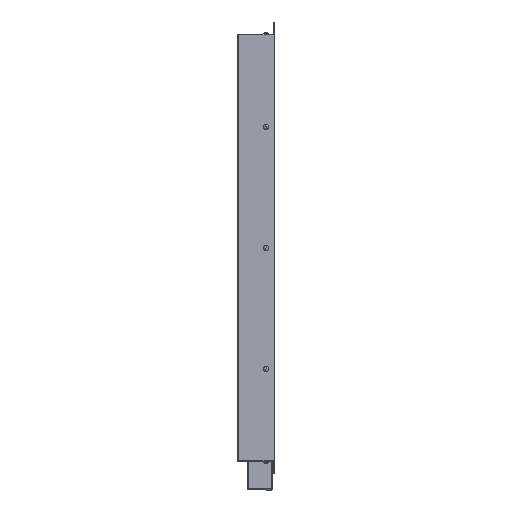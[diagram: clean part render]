
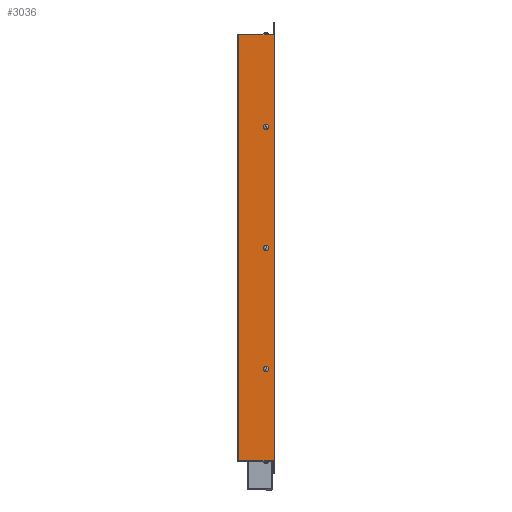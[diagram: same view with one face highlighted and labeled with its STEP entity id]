
A CAD part, left-side view. The second image highlights one B-rep face of the part: STEP entity #3036.
In plain terms, the highlighted planar face has unit normal (-1, 0, 0).
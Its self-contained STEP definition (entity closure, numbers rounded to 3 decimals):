
#253 = CIRCLE ( 'NONE', #5078, 3.45 ) ;
#361 = EDGE_CURVE ( 'NONE', #4134, #3104, #1753, .T. ) ;
#471 = EDGE_CURVE ( 'NONE', #2276, #893, #1402, .T. ) ;
#584 = CIRCLE ( 'NONE', #3241, 3.45 ) ;
#659 = CARTESIAN_POINT ( 'NONE',  ( -265., 44., 264. ) ) ;
#751 = AXIS2_PLACEMENT_3D ( 'NONE', #1857, #1760, #1757 ) ;
#770 = CARTESIAN_POINT ( 'NONE',  ( -265., 13.189, -148.683 ) ) ;
#893 = VERTEX_POINT ( 'NONE', #770 ) ;
#979 = DIRECTION ( 'NONE',  ( 0., 0., 1. ) ) ;
#993 = DIRECTION ( 'NONE',  ( -1., 0., 0. ) ) ;
#1019 = CARTESIAN_POINT ( 'NONE',  ( -265., 13.189, 148.683 ) ) ;
#1051 = CARTESIAN_POINT ( 'NONE',  ( -265., 10., -150. ) ) ;
#1088 = EDGE_CURVE ( 'NONE', #3165, #2665, #253, .T. ) ;
#1179 = VECTOR ( 'NONE', #4501, 1000. ) ;
#1183 = LINE ( 'NONE', #4536, #1179 ) ;
#1218 = DIRECTION ( 'NONE',  ( -1., 0., 0. ) ) ;
#1324 = CARTESIAN_POINT ( 'NONE',  ( -265., 0., -264. ) ) ;
#1400 = VECTOR ( 'NONE', #5074, 1000. ) ;
#1402 = CIRCLE ( 'NONE', #2366, 3.45 ) ;
#1434 = LINE ( 'NONE', #5094, #1400 ) ;
#1596 = DIRECTION ( 'NONE',  ( 0., 0., 1. ) ) ;
#1599 = DIRECTION ( 'NONE',  ( -1., 0., 0. ) ) ;
#1621 = CARTESIAN_POINT ( 'NONE',  ( -265., 10., 0. ) ) ;
#1633 = DIRECTION ( 'NONE',  ( 0., 0., 1. ) ) ;
#1731 = VECTOR ( 'NONE', #3074, 1000. ) ;
#1753 = LINE ( 'NONE', #3008, #1731 ) ;
#1757 = DIRECTION ( 'NONE',  ( 0., 0., 1. ) ) ;
#1760 = DIRECTION ( 'NONE',  ( -1., 0., 0. ) ) ;
#1775 = CARTESIAN_POINT ( 'NONE',  ( -265., 10., -150. ) ) ;
#1799 = PLANE ( 'NONE',  #751 ) ;
#1857 = CARTESIAN_POINT ( 'NONE',  ( -265., 45., 265. ) ) ;
#1921 = DIRECTION ( 'NONE',  ( -1., 0., 0. ) ) ;
#1969 = CIRCLE ( 'NONE', #6294, 3.45 ) ;
#1977 = CIRCLE ( 'NONE', #2294, 3.45 ) ;
#2276 = VERTEX_POINT ( 'NONE', #5409 ) ;
#2294 = AXIS2_PLACEMENT_3D ( 'NONE', #1775, #1921, #1633 ) ;
#2338 = AXIS2_PLACEMENT_3D ( 'NONE', #4983, #4976, #4973 ) ;
#2366 = AXIS2_PLACEMENT_3D ( 'NONE', #1051, #993, #979 ) ;
#2387 = EDGE_CURVE ( 'NONE', #2665, #3165, #4286, .T. ) ;
#2574 = EDGE_CURVE ( 'NONE', #2754, #5655, #3928, .T. ) ;
#2665 = VERTEX_POINT ( 'NONE', #3548 ) ;
#2727 = VERTEX_POINT ( 'NONE', #3083 ) ;
#2741 = ORIENTED_EDGE ( 'NONE', *, *, #2387, .F. ) ;
#2754 = VERTEX_POINT ( 'NONE', #3058 ) ;
#2807 = ORIENTED_EDGE ( 'NONE', *, *, #1088, .F. ) ;
#3008 = CARTESIAN_POINT ( 'NONE',  ( -265., 45., -264. ) ) ;
#3029 = ORIENTED_EDGE ( 'NONE', *, *, #4746, .F. ) ;
#3036 = ADVANCED_FACE ( 'NONE', ( #3284, #3210, #3198, #3192 ), #1799, .T. ) ;
#3058 = CARTESIAN_POINT ( 'NONE',  ( -265., 0., 264. ) ) ;
#3074 = DIRECTION ( 'NONE',  ( 0., -1., 0. ) ) ;
#3083 = CARTESIAN_POINT ( 'NONE',  ( -265., 13.189, 1.317 ) ) ;
#3104 = VERTEX_POINT ( 'NONE', #1324 ) ;
#3165 = VERTEX_POINT ( 'NONE', #1019 ) ;
#3192 = FACE_BOUND ( 'NONE', #4859, .T. ) ;
#3198 = FACE_BOUND ( 'NONE', #3309, .T. ) ;
#3209 = ORIENTED_EDGE ( 'NONE', *, *, #2574, .T. ) ;
#3210 = FACE_OUTER_BOUND ( 'NONE', #5331, .T. ) ;
#3241 = AXIS2_PLACEMENT_3D ( 'NONE', #1621, #1599, #1596 ) ;
#3284 = FACE_BOUND ( 'NONE', #3352, .T. ) ;
#3304 = DIRECTION ( 'NONE',  ( 0., 0., 1. ) ) ;
#3309 = EDGE_LOOP ( 'NONE', ( #3497, #3505 ) ) ;
#3352 = EDGE_LOOP ( 'NONE', ( #2741, #2807 ) ) ;
#3358 = ORIENTED_EDGE ( 'NONE', *, *, #4565, .T. ) ;
#3424 = ORIENTED_EDGE ( 'NONE', *, *, #361, .T. ) ;
#3497 = ORIENTED_EDGE ( 'NONE', *, *, #4002, .F. ) ;
#3505 = ORIENTED_EDGE ( 'NONE', *, *, #5399, .F. ) ;
#3513 = ORIENTED_EDGE ( 'NONE', *, *, #3960, .F. ) ;
#3546 = ORIENTED_EDGE ( 'NONE', *, *, #471, .F. ) ;
#3548 = CARTESIAN_POINT ( 'NONE',  ( -265., 6.811, 151.317 ) ) ;
#3711 = VERTEX_POINT ( 'NONE', #4188 ) ;
#3890 = VECTOR ( 'NONE', #4024, 1000. ) ;
#3928 = LINE ( 'NONE', #4050, #3890 ) ;
#3960 = EDGE_CURVE ( 'NONE', #893, #2276, #1977, .T. ) ;
#4002 = EDGE_CURVE ( 'NONE', #2727, #3711, #1969, .T. ) ;
#4024 = DIRECTION ( 'NONE',  ( 0., 1., 0. ) ) ;
#4050 = CARTESIAN_POINT ( 'NONE',  ( -265., 45., 264. ) ) ;
#4134 = VERTEX_POINT ( 'NONE', #6300 ) ;
#4188 = CARTESIAN_POINT ( 'NONE',  ( -265., 6.811, -1.317 ) ) ;
#4286 = CIRCLE ( 'NONE', #2338, 3.45 ) ;
#4501 = DIRECTION ( 'NONE',  ( 0., 0., -1. ) ) ;
#4536 = CARTESIAN_POINT ( 'NONE',  ( -265., 0., 265. ) ) ;
#4538 = DIRECTION ( 'NONE',  ( 0., 0., 1. ) ) ;
#4565 = EDGE_CURVE ( 'NONE', #5655, #4134, #1434, .T. ) ;
#4746 = EDGE_CURVE ( 'NONE', #2754, #3104, #1183, .T. ) ;
#4844 = CARTESIAN_POINT ( 'NONE',  ( -265., 10., 0. ) ) ;
#4859 = EDGE_LOOP ( 'NONE', ( #3513, #3546 ) ) ;
#4946 = CARTESIAN_POINT ( 'NONE',  ( -265., 10., 150. ) ) ;
#4973 = DIRECTION ( 'NONE',  ( 0., 0., 1. ) ) ;
#4976 = DIRECTION ( 'NONE',  ( -1., 0., 0. ) ) ;
#4983 = CARTESIAN_POINT ( 'NONE',  ( -265., 10., 150. ) ) ;
#5074 = DIRECTION ( 'NONE',  ( 0., 0., -1. ) ) ;
#5078 = AXIS2_PLACEMENT_3D ( 'NONE', #4946, #5342, #4538 ) ;
#5094 = CARTESIAN_POINT ( 'NONE',  ( -265., 44., 265. ) ) ;
#5331 = EDGE_LOOP ( 'NONE', ( #3029, #3209, #3358, #3424 ) ) ;
#5342 = DIRECTION ( 'NONE',  ( -1., 0., 0. ) ) ;
#5399 = EDGE_CURVE ( 'NONE', #3711, #2727, #584, .T. ) ;
#5409 = CARTESIAN_POINT ( 'NONE',  ( -265., 6.811, -151.317 ) ) ;
#5655 = VERTEX_POINT ( 'NONE', #659 ) ;
#6294 = AXIS2_PLACEMENT_3D ( 'NONE', #4844, #1218, #3304 ) ;
#6300 = CARTESIAN_POINT ( 'NONE',  ( -265., 44., -264. ) ) ;
